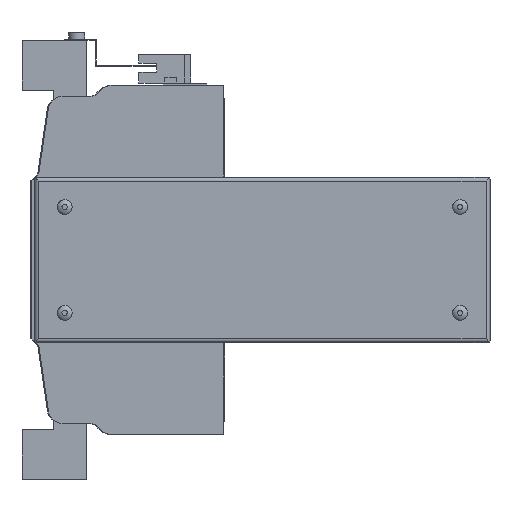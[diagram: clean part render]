
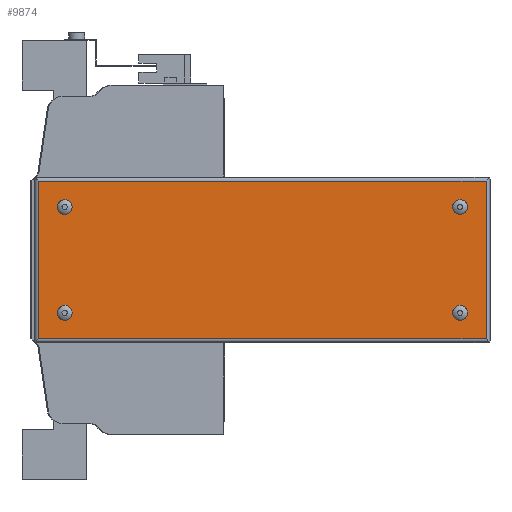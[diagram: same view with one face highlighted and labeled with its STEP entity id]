
A CAD part, left-side view. The second image highlights one B-rep face of the part: STEP entity #9874.
In plain terms, the highlighted planar face has unit normal (-1, 0, 0).
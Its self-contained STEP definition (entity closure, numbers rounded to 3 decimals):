
#287=PLANE('',#10627);
#985=LINE('',#15200,#2056);
#986=LINE('',#15203,#2057);
#987=LINE('',#15205,#2058);
#988=LINE('',#15207,#2059);
#2056=VECTOR('',#12320,1000.);
#2057=VECTOR('',#12321,1000.);
#2058=VECTOR('',#12322,1000.);
#2059=VECTOR('',#12323,1000.);
#3798=ORIENTED_EDGE('',*,*,#5997,.F.);
#3799=ORIENTED_EDGE('',*,*,#5998,.F.);
#3800=ORIENTED_EDGE('',*,*,#5999,.F.);
#3801=ORIENTED_EDGE('',*,*,#6000,.F.);
#3802=ORIENTED_EDGE('',*,*,#6001,.F.);
#3803=ORIENTED_EDGE('',*,*,#6002,.F.);
#3804=ORIENTED_EDGE('',*,*,#6003,.T.);
#3805=ORIENTED_EDGE('',*,*,#6004,.T.);
#5997=EDGE_CURVE('',#7203,#7203,#7863,.F.);
#5998=EDGE_CURVE('',#7204,#7204,#7864,.F.);
#5999=EDGE_CURVE('',#7205,#7205,#7865,.F.);
#6000=EDGE_CURVE('',#7206,#7206,#7866,.F.);
#6001=EDGE_CURVE('',#7207,#7208,#985,.T.);
#6002=EDGE_CURVE('',#7209,#7207,#986,.T.);
#6003=EDGE_CURVE('',#7209,#7210,#987,.T.);
#6004=EDGE_CURVE('',#7210,#7208,#988,.T.);
#7203=VERTEX_POINT('',#15193);
#7204=VERTEX_POINT('',#15195);
#7205=VERTEX_POINT('',#15197);
#7206=VERTEX_POINT('',#15199);
#7207=VERTEX_POINT('',#15201);
#7208=VERTEX_POINT('',#15202);
#7209=VERTEX_POINT('',#15204);
#7210=VERTEX_POINT('',#15206);
#7863=CIRCLE('',#10628,3.7);
#7864=CIRCLE('',#10629,3.7);
#7865=CIRCLE('',#10630,3.7);
#7866=CIRCLE('',#10631,3.7);
#8328=EDGE_LOOP('',(#3798));
#8329=EDGE_LOOP('',(#3799));
#8330=EDGE_LOOP('',(#3800));
#8331=EDGE_LOOP('',(#3801));
#8332=EDGE_LOOP('',(#3802,#3803,#3804,#3805));
#9065=FACE_BOUND('',#8328,.T.);
#9066=FACE_BOUND('',#8329,.T.);
#9067=FACE_BOUND('',#8330,.T.);
#9068=FACE_BOUND('',#8331,.T.);
#9069=FACE_BOUND('',#8332,.T.);
#9874=ADVANCED_FACE('',(#9065,#9066,#9067,#9068,#9069),#287,.F.);
#10627=AXIS2_PLACEMENT_3D('',#15191,#12310,#12311);
#10628=AXIS2_PLACEMENT_3D('',#15192,#12312,#12313);
#10629=AXIS2_PLACEMENT_3D('',#15194,#12314,#12315);
#10630=AXIS2_PLACEMENT_3D('',#15196,#12316,#12317);
#10631=AXIS2_PLACEMENT_3D('',#15198,#12318,#12319);
#12310=DIRECTION('',(1.,0.,0.));
#12311=DIRECTION('',(0.,0.,-1.));
#12312=DIRECTION('',(1.,0.,0.));
#12313=DIRECTION('',(0.,0.,-1.));
#12314=DIRECTION('',(1.,0.,0.));
#12315=DIRECTION('',(0.,0.,-1.));
#12316=DIRECTION('',(1.,0.,0.));
#12317=DIRECTION('',(0.,0.,-1.));
#12318=DIRECTION('',(1.,0.,0.));
#12319=DIRECTION('',(0.,0.,-1.));
#12320=DIRECTION('',(0.,-1.,0.));
#12321=DIRECTION('',(0.,0.,1.));
#12322=DIRECTION('',(0.,-1.,0.));
#12323=DIRECTION('',(0.,0.,1.));
#15191=CARTESIAN_POINT('',(-66.,-131.95,40.5));
#15192=CARTESIAN_POINT('',(-66.,-117.95,26.5));
#15193=CARTESIAN_POINT('',(-66.,-117.95,22.8));
#15194=CARTESIAN_POINT('',(-66.,-117.95,-26.5));
#15195=CARTESIAN_POINT('',(-66.,-117.95,-30.2));
#15196=CARTESIAN_POINT('',(-66.,80.05,26.5));
#15197=CARTESIAN_POINT('',(-66.,80.05,22.8));
#15198=CARTESIAN_POINT('',(-66.,80.05,-26.5));
#15199=CARTESIAN_POINT('',(-66.,80.05,-30.2));
#15200=CARTESIAN_POINT('',(-66.,228.,39.5));
#15201=CARTESIAN_POINT('',(-66.,93.05,39.5));
#15202=CARTESIAN_POINT('',(-66.,-130.95,39.5));
#15203=CARTESIAN_POINT('',(-66.,93.05,-83.));
#15204=CARTESIAN_POINT('',(-66.,93.05,-39.5));
#15205=CARTESIAN_POINT('',(-66.,228.,-39.5));
#15206=CARTESIAN_POINT('',(-66.,-130.95,-39.5));
#15207=CARTESIAN_POINT('',(-66.,-130.95,-83.));
